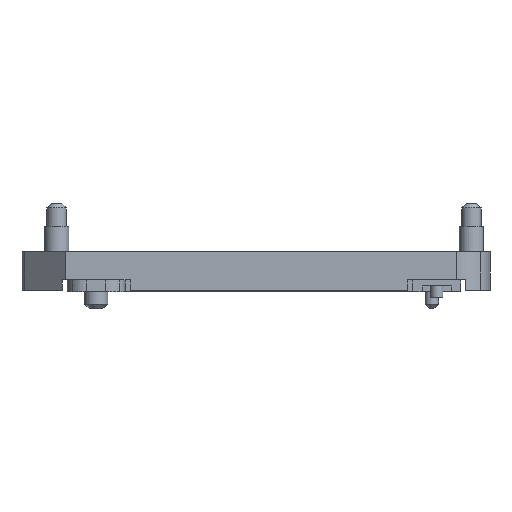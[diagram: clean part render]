
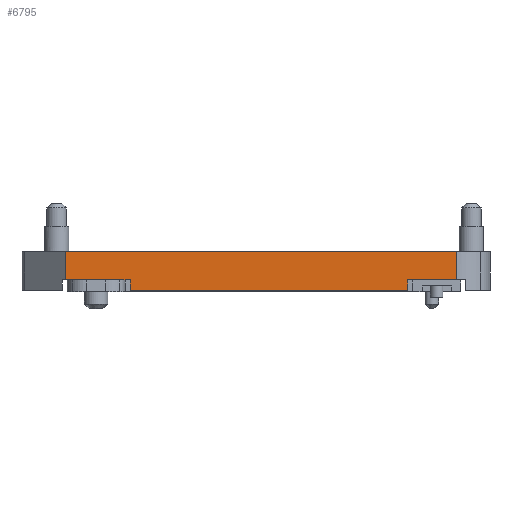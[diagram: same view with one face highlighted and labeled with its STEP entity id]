
A CAD part, front view. The second image highlights one B-rep face of the part: STEP entity #6795.
In plain terms, the highlighted planar face has unit normal (0, -1, 0).
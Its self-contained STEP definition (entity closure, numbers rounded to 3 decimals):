
#3224=CARTESIAN_POINT('',(-19.82,-19.0,2.0));
#3225=VERTEX_POINT('',#3224);
#3232=CARTESIAN_POINT('',(20.5,-19.0,2.0));
#3233=VERTEX_POINT('',#3232);
#3234=CARTESIAN_POINT('',(20.5,-19.0,2.0));
#3235=DIRECTION('',(-1.0,0.0,0.0));
#3236=VECTOR('',#3235,40.32);
#3237=LINE('',#3234,#3236);
#3238=EDGE_CURVE('',#3233,#3225,#3237,.T.);
#3842=CARTESIAN_POINT('',(-19.82,-19.0,-0.91));
#3843=VERTEX_POINT('',#3842);
#3852=CARTESIAN_POINT('',(-19.82,-19.0,2.0));
#3853=DIRECTION('',(0.0,0.0,-1.0));
#3854=VECTOR('',#3853,2.91);
#3855=LINE('',#3852,#3854);
#3856=EDGE_CURVE('',#3225,#3843,#3855,.T.);
#3915=CARTESIAN_POINT('',(-13.14,-19.0,-0.91));
#3916=VERTEX_POINT('',#3915);
#3923=CARTESIAN_POINT('',(-19.82,-19.0,-0.91));
#3924=DIRECTION('',(1.0,0.0,0.0));
#3925=VECTOR('',#3924,6.68);
#3926=LINE('',#3923,#3925);
#3927=EDGE_CURVE('',#3843,#3916,#3926,.T.);
#5225=CARTESIAN_POINT('',(20.5,-19.0,-0.91));
#5226=VERTEX_POINT('',#5225);
#5227=CARTESIAN_POINT('',(20.5,-19.0,2.0));
#5228=DIRECTION('',(0.0,0.0,-1.0));
#5229=VECTOR('',#5228,2.91);
#5230=LINE('',#5227,#5229);
#5231=EDGE_CURVE('',#3233,#5226,#5230,.T.);
#6744=CARTESIAN_POINT('',(-13.14,-19.0,-2.0));
#6745=VERTEX_POINT('',#6744);
#6752=CARTESIAN_POINT('',(-13.14,-19.0,-0.91));
#6753=DIRECTION('',(0.0,0.0,-1.0));
#6754=VECTOR('',#6753,1.09);
#6755=LINE('',#6752,#6754);
#6756=EDGE_CURVE('',#3916,#6745,#6755,.T.);
#6761=CARTESIAN_POINT('',(24.0,-19.0,-2.0));
#6762=DIRECTION('',(0.0,-1.0,0.0));
#6763=DIRECTION('',(0.0,0.0,-1.0));
#6764=AXIS2_PLACEMENT_3D('',#6761,#6762,#6763);
#6765=PLANE('',#6764);
#6766=ORIENTED_EDGE('',*,*,#3856,.T.);
#6767=ORIENTED_EDGE('',*,*,#3927,.T.);
#6768=ORIENTED_EDGE('',*,*,#6756,.T.);
#6769=CARTESIAN_POINT('',(15.5,-19.,-2.0));
#6770=VERTEX_POINT('',#6769);
#6771=CARTESIAN_POINT('',(-13.14,-19.0,-2.0));
#6772=DIRECTION('',(1.0,0.0,0.0));
#6773=VECTOR('',#6772,28.64);
#6774=LINE('',#6771,#6773);
#6775=EDGE_CURVE('',#6745,#6770,#6774,.T.);
#6776=ORIENTED_EDGE('',*,*,#6775,.T.);
#6777=CARTESIAN_POINT('',(15.5,-19.,-0.91));
#6778=VERTEX_POINT('',#6777);
#6779=CARTESIAN_POINT('',(15.5,-19.,-2.0));
#6780=DIRECTION('',(0.0,0.0,1.0));
#6781=VECTOR('',#6780,1.09);
#6782=LINE('',#6779,#6781);
#6783=EDGE_CURVE('',#6770,#6778,#6782,.T.);
#6784=ORIENTED_EDGE('',*,*,#6783,.T.);
#6785=CARTESIAN_POINT('',(15.5,-19.,-0.91));
#6786=DIRECTION('',(1.0,0.0,0.0));
#6787=VECTOR('',#6786,5.);
#6788=LINE('',#6785,#6787);
#6789=EDGE_CURVE('',#6778,#5226,#6788,.T.);
#6790=ORIENTED_EDGE('',*,*,#6789,.T.);
#6791=ORIENTED_EDGE('',*,*,#5231,.F.);
#6792=ORIENTED_EDGE('',*,*,#3238,.T.);
#6793=EDGE_LOOP('',(#6766,#6767,#6768,#6776,#6784,#6790,#6791,#6792));
#6794=FACE_OUTER_BOUND('',#6793,.T.);
#6795=ADVANCED_FACE('',(#6794),#6765,.T.);
